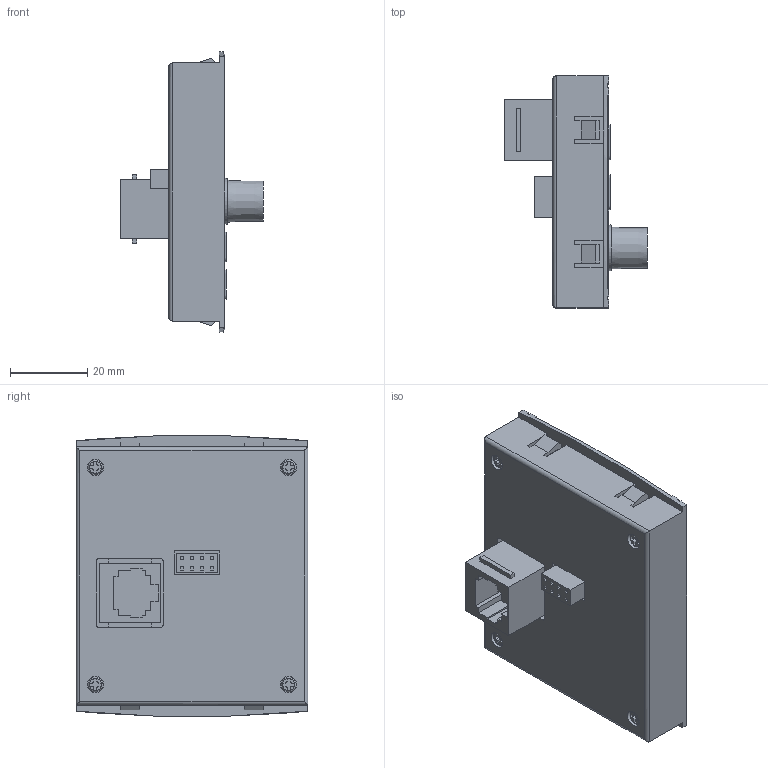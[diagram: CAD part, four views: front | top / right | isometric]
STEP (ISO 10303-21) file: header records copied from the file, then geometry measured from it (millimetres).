
FILE_DESCRIPTION(('STEP AP203'), '1');
FILE_NAME('Ïàíåëü óïðàâëåíèÿ _ SDI-KP', '', ('UNSPECIFIED'), ('UNSPECIFIED'), 'C3D Converter', 'C3D Toolkit', '');
FILE_SCHEMA(('CONFIG_CONTROL_DESIGN'));
Length unit declared in the file: millimetre
Products named in the file (1): SDI-KP
Bounding box: 37 x 60 x 72.58 mm (x, y, z)
Volume: 59639 mm3; surface area: 17599.1 mm2
Topology: 1 solids, 1 shells, 390 faces, 1033 edges, 686 vertices
Faces by surface type: plane 287, cylinder 97, torus 4, bspline 1, cone 1
Full cylindrical faces by diameter (mm): 3.8 x4, 4.2 x4, 11.8 x1
Entity records: 15120 total; most frequent: CARTESIAN_POINT 2115, ORIENTED_EDGE 2038, DIRECTION 2001, EDGE_CURVE 1019, LINE 809, VECTOR 809, VERTEX_POINT 686, AXIS2_PLACEMENT_3D 596
